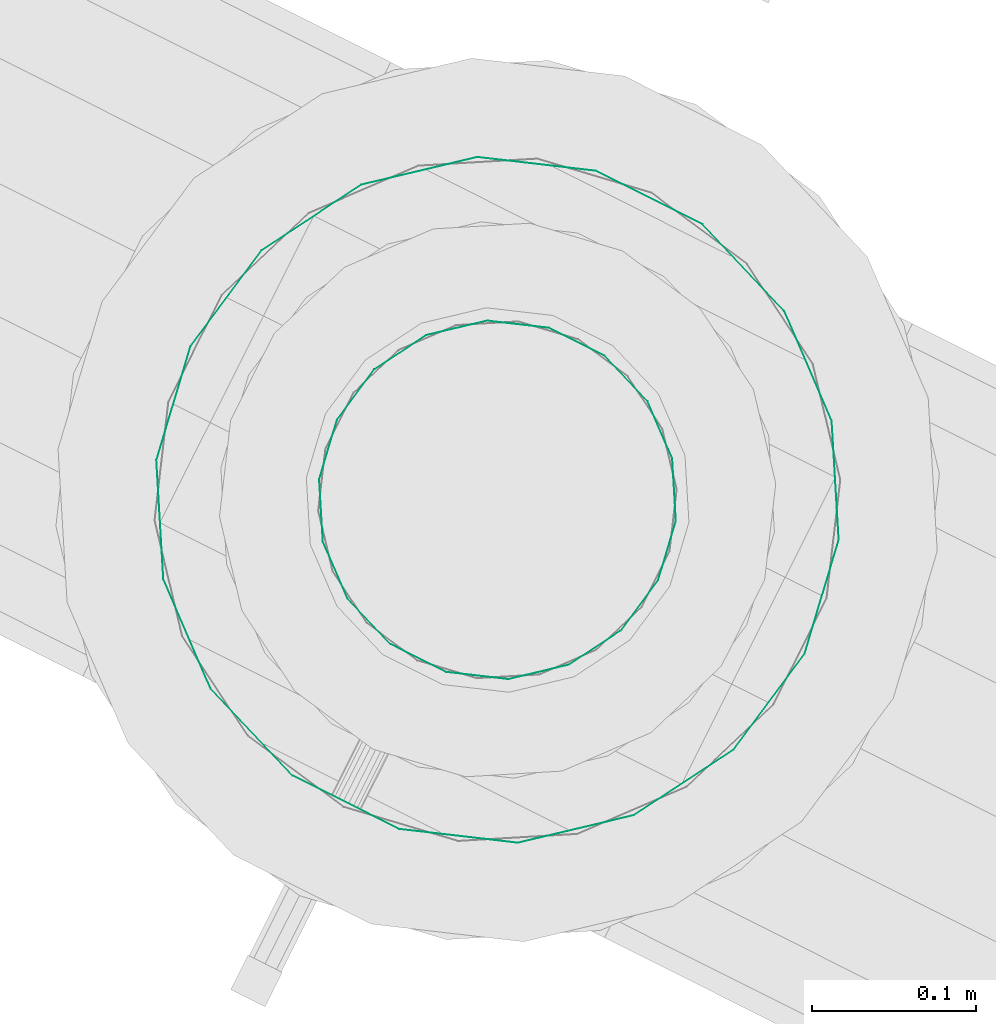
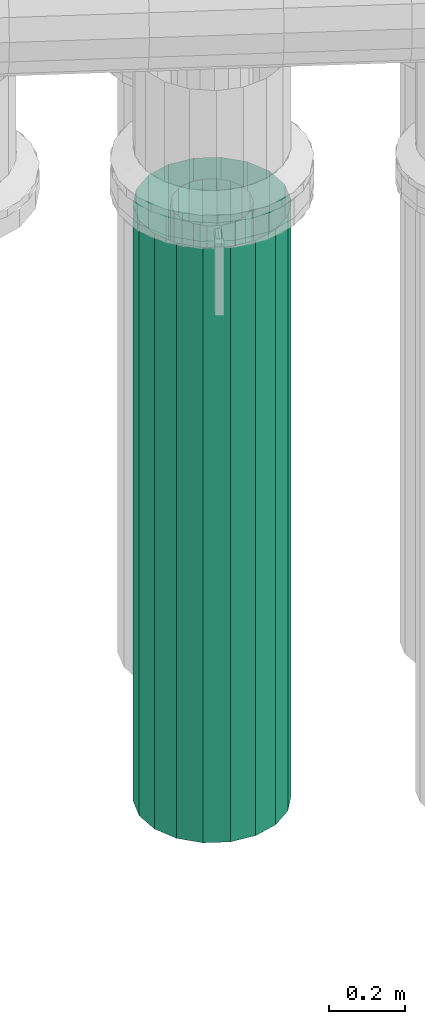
# One storey, part 11 of 152: 1 flow segment.
"""IFC2X3 building model written with IfcOpenShell, lengths in metres."""

import ifcopenshell
import ifcopenshell.guid

model = None  # the IFC model being written
_history = None  # IfcOwnerHistory: only IFC2X3 demands one
_inside = {}  # id of a spatial element -> (the spatial element, [elements in it])
_under = {}  # id of a project, library or spatial element -> (it, [spatial elements below it])
_declared = {}  # id of a project -> (the project, [libraries it declares])
_typed = {}  # id of a type object -> (the type object, [elements of that type])
_made_of = {}  # id of a material, layer set ... -> (it, [elements and type objects made of it])


def new_model(schema):
    """Start an empty IFC model of exactly this schema.

    Asked for "IFC4X3", IfcOpenShell would pick the latest addendum, in which some entities
    have other attributes; the version numbers below select the first issue.
    IFC2X3 requires an IfcOwnerHistory on every rooted entity: one is made here for all.
    """
    global model, _history
    if schema == "IFC4X3":
        model = ifcopenshell.file(schema_version=(4, 3, 0, 0))
    else:
        model = ifcopenshell.file(schema=schema)
    _inside.clear()
    _under.clear()
    _declared.clear()
    _typed.clear()
    _made_of.clear()
    _history = None
    if model.schema == "IFC2X3":
        org = make("IfcOrganization", Name="unknown")
        user = make(
            "IfcPersonAndOrganization",
            ThePerson=make("IfcPerson", FamilyName="unknown"),
            TheOrganization=org,
        )
        app = make(
            "IfcApplication",
            ApplicationDeveloper=org,
            Version="unknown",
            ApplicationFullName="unknown",
            ApplicationIdentifier="unknown",
        )
        _history = make(
            "IfcOwnerHistory",
            OwningUser=user,
            OwningApplication=app,
            ChangeAction="ADDED",
            CreationDate=0,
        )
    return model


def make(cls, **values):
    """One entity of the class cls with the attributes given. An attribute that is None is left unset."""
    return model.create_entity(
        cls, **{name: value for name, value in values.items() if value is not None}
    )


def rooted(cls, **values):
    """An entity with a GlobalId (a new one), such as an element, a storey or a relation."""
    return make(cls, GlobalId=ifcopenshell.guid.new(), OwnerHistory=_history, **values)


def si_unit(unit_type, name, prefix=None):
    """IfcSIUnit, for example si_unit("LENGTHUNIT", "METRE", prefix="MILLI")."""
    return make("IfcSIUnit", UnitType=unit_type, Prefix=prefix, Name=name)


def derived_unit(unit_type, elements):
    """IfcDerivedUnit: a product of units, each with its exponent."""
    return make(
        "IfcDerivedUnit",
        Elements=[
            make("IfcDerivedUnitElement", Unit=unit, Exponent=power)
            for unit, power in elements
        ],
        UnitType=unit_type,
    )


def assignment(units):
    """IfcUnitAssignment: the units of a project."""
    return None if units is None else make("IfcUnitAssignment", Units=units)


def point(xyz):
    """IfcCartesianPoint."""
    return None if xyz is None else make("IfcCartesianPoint", Coordinates=xyz)


def direction(xyz):
    """IfcDirection."""
    return None if xyz is None else make("IfcDirection", DirectionRatios=xyz)


def frame(location, z_axis=None, x_axis=None):
    """IfcAxis2Placement3D, a coordinate frame: its origin and axes. An axis left out is left unset."""
    return make(
        "IfcAxis2Placement3D",
        Location=point(location),
        Axis=direction(z_axis),
        RefDirection=direction(x_axis),
    )


def origin():
    """The frame at (0, 0, 0) with its axes left unset."""
    return frame((0.0, 0.0, 0.0))


def place(relative_to, where):
    """IfcLocalPlacement: puts the frame where relative to a parent placement (None: the world)."""
    return make(
        "IfcLocalPlacement", PlacementRelTo=relative_to, RelativePlacement=where
    )


def context(
    kind, dimensions, precision=None, world=None, true_north=None, identifier=None
):
    """IfcGeometricRepresentationContext, for example the 3D "Model" context."""
    return make(
        "IfcGeometricRepresentationContext",
        ContextIdentifier=identifier,
        ContextType=kind,
        CoordinateSpaceDimension=dimensions,
        Precision=precision,
        WorldCoordinateSystem=world,
        TrueNorth=true_north,
    )


def subcontext(parent, identifier, kind, view, scale=None):
    """IfcGeometricRepresentationSubContext, for example "Body" below "Model"."""
    return make(
        "IfcGeometricRepresentationSubContext",
        ContextIdentifier=identifier,
        ContextType=kind,
        ParentContext=parent,
        TargetScale=scale,
        TargetView=view,
    )


def project(units=None, contexts=None):
    """IfcProject with its units and contexts."""
    return rooted(
        "IfcProject",
        Name="project",
        RepresentationContexts=contexts,
        UnitsInContext=assignment(units),
    )


def spatial(cls, under=None, at=None, **own):
    """A site, building, storey or space (cls), placed at a placement, below another one or the project."""
    s = rooted(cls, ObjectPlacement=at, **own)
    if under is not None:
        _under.setdefault(under.id(), (under, []))[1].append(s)
    return s


def faces_of(points, faces, orient=None, outer=None):
    """IfcFace entities. A face is a list of loops; a loop is a list of indices into points, from 0.

    orient and outer hold one flag for each loop. By default every Orientation is true, the
    first loop of a face is its IfcFaceOuterBound and the others are IfcFaceBound.
    """
    made = []
    for i, loops in enumerate(faces):
        bounds = []
        for j, loop in enumerate(loops):
            is_outer = j == 0 if outer is None else outer[i][j]
            bounds.append(
                make(
                    "IfcFaceOuterBound" if is_outer else "IfcFaceBound",
                    Bound=make("IfcPolyLoop", Polygon=[points[k] for k in loop]),
                    Orientation=True if orient is None else orient[i][j],
                )
            )
        made.append(make("IfcFace", Bounds=bounds))
    return made


def face_set(faces, orient=None, outer=None):
    """The faces of one IfcConnectedFaceSet. surface_model builds it on its shared points."""
    return ("IfcConnectedFaceSet", faces, orient, outer)


def surface_model(cls, points, shells):
    """IfcFaceBasedSurfaceModel or IfcShellBasedSurfaceModel (cls): surfaces that need not close."""
    shared = [point(p) for p in points]
    made = [make(c, CfsFaces=faces_of(shared, fs, o, b)) for c, fs, o, b in shells]
    if cls == "IfcFaceBasedSurfaceModel":
        return make(cls, FbsmFaces=made)
    return make(cls, SbsmBoundary=made)


def shape(context_of_items, identifier, shape_type, items):
    """IfcShapeRepresentation: the items that make up one representation, for example the "Body"."""
    return make(
        "IfcShapeRepresentation",
        ContextOfItems=context_of_items,
        RepresentationIdentifier=identifier,
        RepresentationType=shape_type,
        Items=items,
    )


def source(mapping_origin, context_of_items, identifier, shape_type, items):
    """IfcRepresentationMap: a shape defined once, which mapped items show again and again."""
    return make(
        "IfcRepresentationMap",
        MappingOrigin=mapping_origin,
        MappedRepresentation=shape(context_of_items, identifier, shape_type, items),
    )


def transform(
    local_origin,
    x_axis=None,
    y_axis=None,
    z_axis=None,
    scale=None,
    scale2=None,
    scale3=None,
    uniform=True,
):
    """IfcCartesianTransformationOperator3D, or its non-uniform kind. x_axis, y_axis, z_axis: its Axis1, 2, 3."""
    if uniform:
        return make(
            "IfcCartesianTransformationOperator3D",
            Axis1=direction(x_axis),
            Axis2=direction(y_axis),
            LocalOrigin=point(local_origin),
            Scale=scale,
            Axis3=direction(z_axis),
        )
    return make(
        "IfcCartesianTransformationOperator3DnonUniform",
        Axis1=direction(x_axis),
        Axis2=direction(y_axis),
        LocalOrigin=point(local_origin),
        Scale=scale,
        Axis3=direction(z_axis),
        Scale2=scale2,
        Scale3=scale3,
    )


def mapped(mapping_source, mapping_target):
    """IfcMappedItem: shows the shape of a source again, moved by a transform."""
    return make(
        "IfcMappedItem", MappingSource=mapping_source, MappingTarget=mapping_target
    )


def material(Name=None, Category=None):
    """IfcMaterial."""
    return make("IfcMaterial", Name=Name, Category=Category)


def made_of(thing, what):
    """Note that an element or type object is made of a material, layer set ...; save() writes the relation."""
    if what is not None:
        _made_of.setdefault(what.id(), (what, []))[1].append(thing)
    return thing


def type_object(cls, material=None, **own):
    """A type object (cls), such as IfcWallType, which elements share."""
    return made_of(rooted(cls, **own), material)


def type_shapes(of_type, sources):
    """Give a type object the sources (RepresentationMaps) that its elements show as mapped items."""
    of_type.RepresentationMaps = sources


def element(
    cls,
    number,
    at=None,
    inside=None,
    cuts=None,
    type_object=None,
    material=None,
    context=None,
    identifier="Body",
    shape_type=None,
    held_by="IfcProductDefinitionShape",
    body=None,
    shapes=None,
    **own,
):
    """One element of the class cls, such as IfcWall. Its Tag is "e" and its number.

    at: its placement. inside: the storey or other place that contains it. cuts: it is an
    opening in that element (IfcRelVoidsElement). A single representation is given by context,
    identifier, shape_type and body (its items); several are given by shapes. held_by: the class
    of the entity that holds the representations. save() writes the other relations.
    """
    e = rooted(cls, Tag="e%d" % number, ObjectPlacement=at, **own)
    if body is not None:
        shapes = [shape(context, identifier, shape_type, body)]
    if shapes is not None:
        e.Representation = make(held_by, Representations=shapes)
    if inside is not None:
        _inside.setdefault(inside.id(), (inside, []))[1].append(e)
    if cuts is not None:
        rooted(
            "IfcRelVoidsElement", RelatingBuildingElement=cuts, RelatedOpeningElement=e
        )
    if type_object is not None:
        _typed.setdefault(type_object.id(), (type_object, []))[1].append(e)
    return made_of(e, material)


def aggregate(whole, parts):
    """IfcRelAggregates: a whole, such as a stair, and the parts it consists of."""
    return rooted("IfcRelAggregates", RelatingObject=whole, RelatedObjects=parts)


def save(model, path):
    """Write the relations noted so far, then the file.

    IfcRelAggregates (storeys below a building ...), IfcRelContainedInSpatialStructure (elements
    in a storey), IfcRelDefinesByType, IfcRelAssociatesMaterial and IfcRelDeclares: one each for
    every whole, place, type object, material and project.
    """
    for whole, parts in _under.values():
        aggregate(whole, parts)
    for where, things in _inside.values():
        rooted(
            "IfcRelContainedInSpatialStructure",
            RelatedElements=things,
            RelatingStructure=where,
        )
    for kind, things in _typed.values():
        rooted("IfcRelDefinesByType", RelatedObjects=things, RelatingType=kind)
    for what, things in _made_of.values():
        rooted("IfcRelAssociatesMaterial", RelatedObjects=things, RelatingMaterial=what)
    for by, libraries in _declared.values():
        rooted("IfcRelDeclares", RelatingContext=by, RelatedDefinitions=libraries)
    model.write(path)


model = new_model("IFC2X3")

# Units and contexts
model_context = context("Model", 3, precision=5.2338327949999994e-05, world=origin(), true_north=direction((0.0, 1.0)))
body_context = subcontext(model_context, "Body", "Model", "MODEL_VIEW")
ifc_project = project(units=[si_unit("LENGTHUNIT", "METRE"), si_unit("AREAUNIT", "SQUARE_METRE"), si_unit("VOLUMEUNIT", "CUBIC_METRE"), si_unit("MASSUNIT", "GRAM", prefix="KILO"), si_unit("PLANEANGLEUNIT", "RADIAN"), derived_unit("THERMALTRANSMITTANCEUNIT", [(si_unit("MASSUNIT", "GRAM", prefix="KILO"), 1), (si_unit("THERMODYNAMICTEMPERATUREUNIT", "KELVIN"), -1), (si_unit("TIMEUNIT", "SECOND"), -3)])], contexts=[model_context])

# Site, building, storey
site_placement = place(None, frame((0.0, 0.0, 0.0), z_axis=(0.0, 0.0, 1.0), x_axis=(0.8939966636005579, -0.4480736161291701, 0.0)))
site = spatial("IfcSite", under=ifc_project, at=site_placement, Name="Default", CompositionType="ELEMENT")
building_placement = place(site_placement, origin())
building = spatial("IfcBuilding", under=site, at=building_placement, CompositionType="ELEMENT")
storey_placement = place(building_placement, frame((0.0, 0.0, 2.7499999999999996)))
storey = spatial("IfcBuildingStorey", under=building, at=storey_placement, Name="1. Obergeschoss", CompositionType="ELEMENT", Elevation=2.7499999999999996)

# Flow segment
ifc_material = material(Name="IfcSurfaceStyle #9317")
distribution_element_type = type_object("IfcDistributionElementType", Name="Stahlrohr nach DIN 2448 245604:Stahlrohr nach DIN 2448 245604", material=ifc_material)
shared_shape = source(origin(), body_context, "Body", "SurfaceModel", [
    surface_model("IfcFaceBasedSurfaceModel", [(6.697364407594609, 7.3272083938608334, 4.868622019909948), (6.690757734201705, 7.289740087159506, 4.868622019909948), (6.690757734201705, 7.289740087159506, 2.95), (6.697364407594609, 7.327208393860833, 2.95), (6.671734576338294, 7.256791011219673, 4.868622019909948), (6.671734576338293, 7.256791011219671, 2.95), (6.64258940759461, 7.232335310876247, 4.868622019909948), (6.64258940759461, 7.2323353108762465, 2.95), (6.606837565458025, 7.219322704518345, 4.868622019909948), (6.606837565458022, 7.219322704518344, 2.95), (6.568791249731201, 7.219322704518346, 4.868622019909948), (6.5687912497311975, 7.219322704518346, 2.95), (6.53303940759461, 7.232335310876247, 4.868622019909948), (6.533039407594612, 7.2323353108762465, 2.95), (6.5038942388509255, 7.256791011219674, 4.868622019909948), (6.5038942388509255, 7.256791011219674, 2.95), (6.484871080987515, 7.289740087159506, 4.868622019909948), (6.484871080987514, 7.289740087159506, 2.95), (6.478264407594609, 7.3272083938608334, 4.868622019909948), (6.478264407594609, 7.3272083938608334, 2.95), (6.484871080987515, 7.3646767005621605, 4.868622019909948), (6.484871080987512, 7.3646767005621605, 2.95), (6.503894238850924, 7.397625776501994, 4.868622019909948), (6.503894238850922, 7.397625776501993, 2.95), (6.533039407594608, 7.4220814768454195, 4.868622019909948), (6.533039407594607, 7.4220814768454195, 2.95), (6.568791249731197, 7.435094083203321, 4.868622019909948), (6.568791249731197, 7.435094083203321, 2.95), (6.60683756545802, 7.435094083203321, 4.868622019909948), (6.60683756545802, 7.435094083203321, 2.95), (6.642589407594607, 7.42208147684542, 4.868622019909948), (6.642589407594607, 7.42208147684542, 2.95), (6.6717345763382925, 7.397625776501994, 4.868622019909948), (6.671734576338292, 7.397625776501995, 2.95), (6.690757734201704, 7.3646767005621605, 4.868622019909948), (6.690757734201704, 7.3646767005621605, 2.95), (6.797364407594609, 7.3272083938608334, 4.868622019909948), (6.7847269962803, 7.255538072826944, 4.868622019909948), (6.7847269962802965, 7.255538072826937, 2.95), (6.797364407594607, 7.3272083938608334, 2.95), (6.748339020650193, 7.192512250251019, 4.868622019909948), (6.7483390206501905, 7.192512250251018, 2.95), (6.692589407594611, 7.145732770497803, 4.868622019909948), (6.692589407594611, 7.145732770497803, 2.95), (6.624202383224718, 7.120841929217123, 4.868622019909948), (6.624202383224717, 7.120841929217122, 2.95), (6.551426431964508, 7.120841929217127, 4.868622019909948), (6.551426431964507, 7.120841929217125, 2.95), (6.483039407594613, 7.145732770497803, 4.868622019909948), (6.483039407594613, 7.145732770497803, 2.95), (6.427289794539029, 7.192512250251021, 4.868622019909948), (6.427289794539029, 7.192512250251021, 2.95), (6.390901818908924, 7.2555380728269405, 4.868622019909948), (6.390901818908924, 7.2555380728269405, 2.95), (6.378264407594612, 7.327208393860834, 4.868622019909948), (6.37826440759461, 7.327208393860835, 2.95), (6.39090181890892, 7.39887871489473, 4.868622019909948), (6.3909018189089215, 7.398878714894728, 2.95), (6.427289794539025, 7.461904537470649, 4.868622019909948), (6.427289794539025, 7.461904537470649, 2.95), (6.483039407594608, 7.508684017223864, 4.868622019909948), (6.483039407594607, 7.508684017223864, 2.95), (6.5514264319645, 7.533574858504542, 4.868622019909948), (6.5514264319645, 7.533574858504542, 2.95), (6.62420238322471, 7.533574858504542, 4.868622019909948), (6.624202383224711, 7.533574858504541, 2.95), (6.692589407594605, 7.508684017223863, 4.868622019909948), (6.692589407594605, 7.508684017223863, 2.95), (6.7483390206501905, 7.461904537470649, 4.868622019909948), (6.748339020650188, 7.461904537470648, 2.95), (6.784726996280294, 7.398878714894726, 4.868622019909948), (6.784726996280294, 7.398878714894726, 2.95)], [face_set([[[0, 1, 2, 3]], [[1, 4, 5, 2]], [[4, 6, 7, 5]], [[6, 8, 9, 7]], [[8, 10, 11, 9]], [[10, 12, 13, 11]], [[12, 14, 15, 13]], [[14, 16, 17, 15]], [[16, 18, 19, 17]], [[18, 20, 21, 19]], [[20, 22, 23, 21]], [[22, 24, 25, 23]], [[24, 26, 27, 25]], [[26, 28, 29, 27]], [[28, 30, 31, 29]], [[30, 32, 33, 31]], [[32, 34, 35, 33]], [[34, 0, 3, 35]], [[36, 37, 38, 39]], [[37, 40, 41, 38]], [[40, 42, 43, 41]], [[42, 44, 45, 43]], [[44, 46, 47, 45]], [[46, 48, 49, 47]], [[48, 50, 51, 49]], [[50, 52, 53, 51]], [[52, 54, 55, 53]], [[54, 56, 57, 55]], [[56, 58, 59, 57]], [[58, 60, 61, 59]], [[60, 62, 63, 61]], [[62, 64, 65, 63]], [[64, 66, 67, 65]], [[66, 68, 69, 67]], [[68, 70, 71, 69]], [[70, 36, 39, 71]]])]),
])
type_shapes(distribution_element_type, [shared_shape])
flow_segment_placement = place(storey_placement, frame((0.0, 0.0, -2.7499999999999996)))
element("IfcFlowSegment", 1, at=flow_segment_placement, inside=storey, type_object=distribution_element_type, material=ifc_material, Name="Stahlrohr nach DIN 2448", ObjectType="Stahlrohr nach DIN 2448", context=body_context, shape_type="MappedRepresentation", body=[
    mapped(shared_shape, transform((0.0, 0.0, 0.0), scale=1.0)),
])

save(model, "model.ifc")
